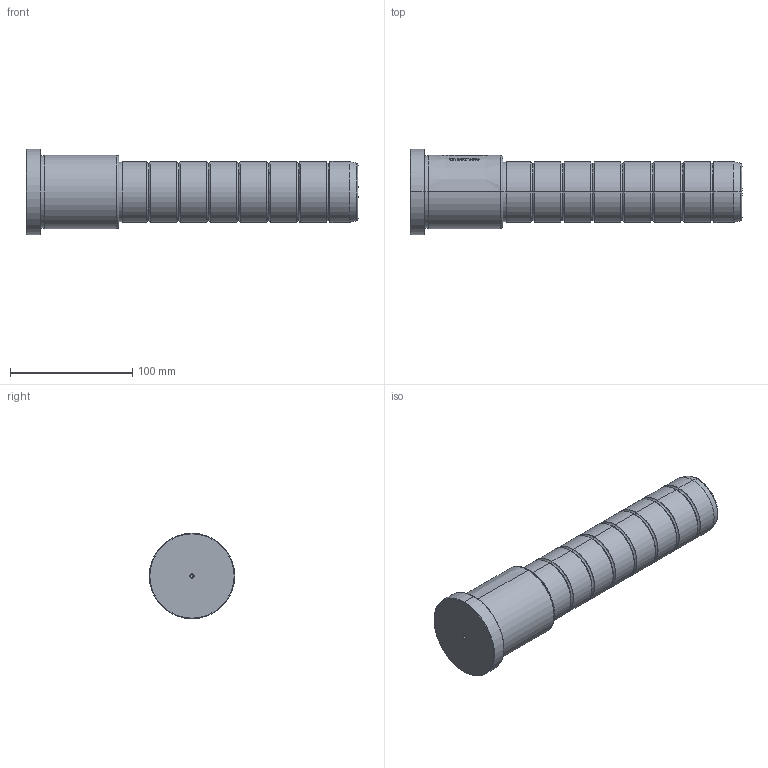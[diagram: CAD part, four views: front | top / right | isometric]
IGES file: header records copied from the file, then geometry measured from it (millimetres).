
Start section: SolidWorks IGES file using analytic representation for surfaces
Global section: file name: D:\TRIVECTOR\2026\08_Agosto\CM - COLUNA PRINCIPAL E31 (CATÁLOGO)\CM50076196.IGS; native system: SolidWorks 2024; preprocessor: SolidWorks 2024; author: Usuario; date: 260901.164008; units: millimetre
Bounding box: 272 x 70 x 70 mm (x, y, z)
Surface area: 54750.2 mm2 (no closed solid volume)
Topology: 0 solids, 0 shells, 492 faces, 5904 edges, 5900 vertices
Faces by surface type: bspline 403, revolution 89
